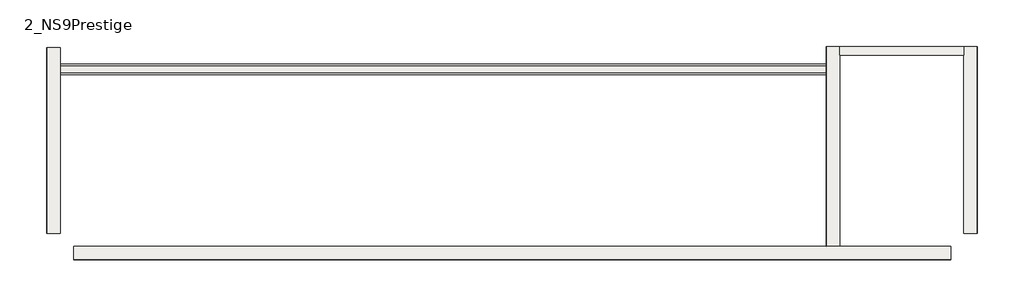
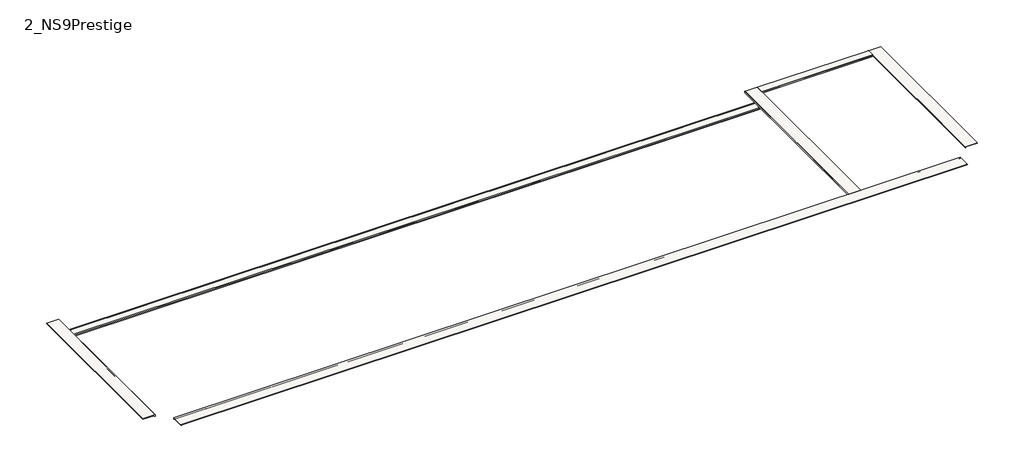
# One storey: 6 slabs.
"""IFC4 building model written with IfcOpenShell, lengths in millimetres."""

from ifc_helpers import new_model, si_unit, origin, place, context, project, spatial, transform, mapped, element, save
from components import slab_bb0e90c2, slab_eb0ea626, slab_401e2c3a, slab_16cf1f15, slab_31a55dce, slab_5c20299a

model = new_model("IFC4")

# Units and contexts
model_context = context("Model", 3, world=origin())
ifc_project = project(units=[si_unit("LENGTHUNIT", "METRE", prefix="MILLI")], contexts=[model_context])

# Site, building, storey
site = spatial("IfcSite", under=ifc_project)
building = spatial("IfcBuilding", under=site)
storey = spatial("IfcBuildingStorey", under=building, Name="2_NS9Prestige", Elevation=-245.0)

# Slabs
placement = place(None, origin())
slab_shape = slab_bb0e90c2(model_context)
element("IfcSlab", 1, ObjectType="ROSA GRES_L62 : Pieza L62_Pietro_White_Anti-Slip", at=placement, inside=storey, context=model_context, shape_type="MappedRepresentation", body=[
    mapped(slab_shape, transform((-1200.5116075, 12415.5852365, 0.0), x_axis=(0.0, -1.0, 0.0), y_axis=(1.0, 0.0, 0.0), z_axis=(0.0, 0.0, 1.0))),
])
slab_2_shape = slab_eb0ea626(model_context)
element("IfcSlab", 2, ObjectType="ROSA GRES_L62 : Pieza L62_Pietro_White_Anti-Slip", at=placement, inside=storey, context=model_context, shape_type="MappedRepresentation", body=[
    mapped(slab_2_shape, transform((-889.579751, 7785.5852365, 0.0), x_axis=(1.0, 0.0, 0.0), y_axis=(0.0, 1.0, 0.0), z_axis=(0.0, 0.0, 1.0))),
])
slab_3_shape = slab_401e2c3a(model_context)
element("IfcSlab", 3, ObjectType="ROSA GRES_I25_Inclinación : Pieza I25_Pietro_White_Anti-Slip", at=placement, inside=storey, context=model_context, shape_type="MappedRepresentation", body=[
    mapped(slab_3_shape, transform((-1200.5116075, 11785.5852365, -100.0), x_axis=(1.0, 0.0, 0.0), y_axis=(0.0, 1.0, 0.0), z_axis=(0.0, 0.0, 1.0))),
])
slab_4_shape = slab_16cf1f15(model_context)
element("IfcSlab", 4, ObjectType="ROSA GRES_L62 : Pieza L62_Pietro_White_Anti-Slip", at=placement, inside=storey, context=model_context, shape_type="MappedRepresentation", body=[
    mapped(slab_4_shape, transform((16599.4883925, 12440.5852365, 0.0), x_axis=(0.0, -1.0, 0.0), y_axis=(1.0, 0.0, 0.0), z_axis=(0.0, 0.0, 1.0))),
])
slab_5_shape = slab_31a55dce(model_context)
element("IfcSlab", 5, ObjectType="ROSA GRES_L62 : Pieza L62_Pietro_White_Anti-Slip", at=placement, inside=storey, context=model_context, shape_type="MappedRepresentation", body=[
    mapped(slab_5_shape, transform((16914.9883925, 12235.5852206, 0.0), x_axis=(1.0, 0.0, 0.0), y_axis=(0.0, 1.0, 0.0), z_axis=(0.0, 0.0, 1.0))),
])
slab_6_shape = slab_5c20299a(model_context)
element("IfcSlab", 6, ObjectType="ROSA GRES_L62 : Pieza L62_Pietro_White_Anti-Slip", at=placement, inside=storey, context=model_context, shape_type="MappedRepresentation", body=[
    mapped(slab_6_shape, transform((19799.4883925, 12433.0852206, 0.0), x_axis=(0.0, -1.0, 0.0), y_axis=(1.0, 0.0, 0.0), z_axis=(0.0, 0.0, 1.0))),
])

save(model, "model.ifc")
